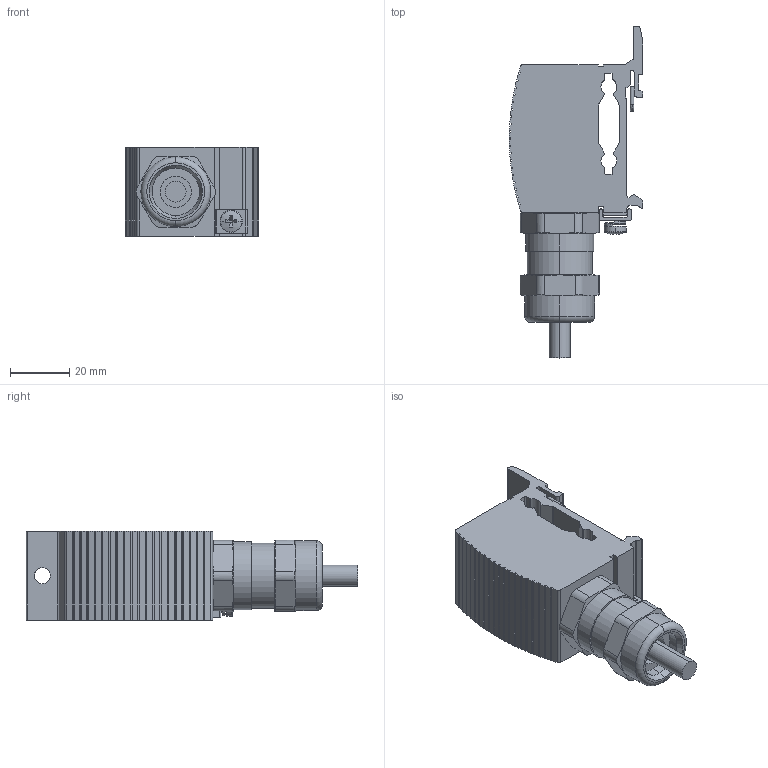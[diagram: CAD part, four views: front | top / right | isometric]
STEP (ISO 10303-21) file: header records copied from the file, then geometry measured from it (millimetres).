
FILE_DESCRIPTION (( 'STEP AP214' ), '1' );
FILE_NAME ('01185.0-00_Ex-Regler.STEP', '2017-08-04T09:57:18', ( '' ), ( '' ), 'SwSTEP 2.0', 'SolidWorks 2017', '' );
FILE_SCHEMA (( 'AUTOMOTIVE_DESIGN' ));
Length unit declared in the file: millimetre
Products named in the file (1): 01185.0-00_Ex-Regler
Bounding box: 45.01 x 112 x 30.2 mm (x, y, z)
Surface area: 19461.7 mm2 (no closed solid volume)
Topology: 0 solids, 9 shells, 314 faces, 898 edges, 592 vertices
Faces by surface type: plane 167, cylinder 115, torus 14, cone 13, bspline 3, sphere 2
Entity records: 14087 total; most frequent: CARTESIAN_POINT 2368, ORIENTED_EDGE 1714, DIRECTION 1713, EDGE_CURVE 898, VERTEX_POINT 592, AXIS2_PLACEMENT_3D 581, LINE 551, VECTOR 551
